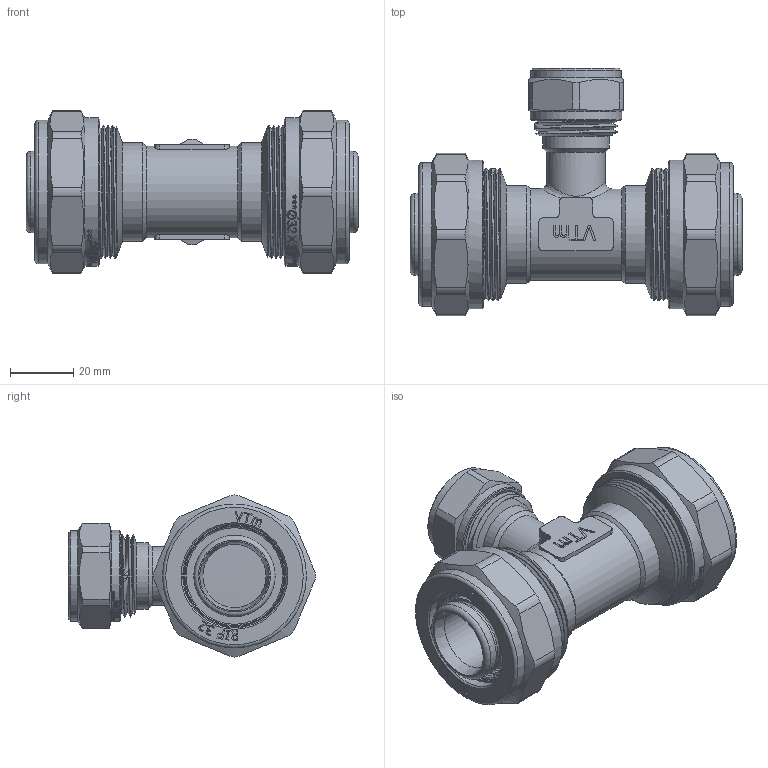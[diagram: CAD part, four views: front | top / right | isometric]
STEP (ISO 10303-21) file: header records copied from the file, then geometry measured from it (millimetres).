
FILE_DESCRIPTION(/* description */ (''),/* implementation_level */ '2;1');
FILE_NAME(/* name */ 'E:\Артём\00000\Работа удаленка\Обжимные фитинги\VTm.331.N.322032.stp',/* time_stamp */ '2020-06-30T13:12:12+03:00',/* author */ ('BeN_GaN'),/* organization */ (''),/* preprocessor_version */ 'ST-DEVELOPER v18',/* originating_system */ 'Autodesk Inventor 2020',/* authorisation */ '');
FILE_SCHEMA (('AUTOMOTIVE_DESIGN { 1 0 10303 214 3 1 1 }'));
Length unit declared in the file: millimetre
Products named in the file (1): VTm.331.N.322032
Bounding box: 105 x 78.15 x 51.3 mm (x, y, z)
Volume: 92303.7 mm3; surface area: 49881.4 mm2
Topology: 1 solids, 2 shells, 2043 faces, 5795 edges, 3910 vertices
Faces by surface type: bspline 1109, plane 561, cylinder 260, torus 70, cone 43
Full cylindrical faces by diameter (mm): 11.5 x1, 13.4 x2, 15.75 x4, 18.5 x1, 19.986 x4, 20 x1, 20.2 x1, 20.728 x5, 21 x2, 22.8 x3, 23.201 x1, 23.4 x4, 24.2 x3, 25.75 x10, 26.4 x2, 28.5 x1, 29 x2, 30.538 x8, 31 x2, 31.683 x10, 32.2 x2, 32.7 x2, 35.5 x2, 40.38 x16, 40.5 x7, 42 x6, 45.5 x2, 47 x2
Entity records: 90461 total; most frequent: CARTESIAN_POINT 44520, ORIENTED_EDGE 11602, DIRECTION 6054, EDGE_CURVE 5801, VERTEX_POINT 3916, LINE 2462, VECTOR 2462, B_SPLINE_CURVE_WITH_KNOTS 2432
